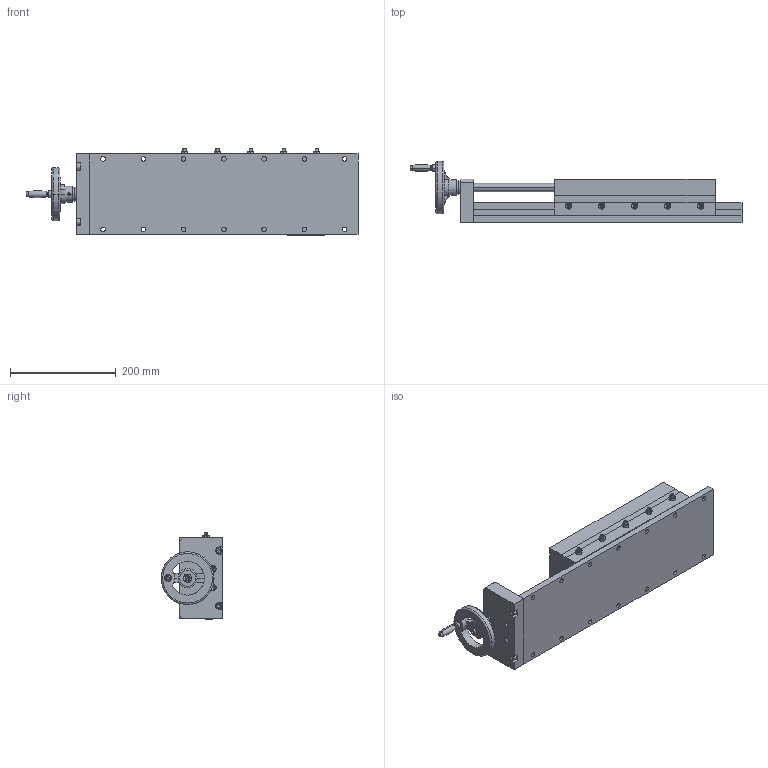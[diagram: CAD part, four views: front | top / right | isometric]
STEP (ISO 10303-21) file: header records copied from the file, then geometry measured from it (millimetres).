
FILE_DESCRIPTION (( 'STEP AP214' ), '1' );
FILE_NAME ('SW06-SL12-BL20-LS.STEP', '2011-11-04T18:42:02', ( '' ), ( '' ), 'SwSTEP 2.0', 'SolidWorks 2011', '' );
FILE_SCHEMA (( 'AUTOMOTIVE_DESIGN' ));
Length unit declared in the file: inch
Products named in the file (25): socket head cap screw_ai_HX-SHCS 0.25-20x0.5x0.5-N; EW-20; AHTNK100; 6681K11; Gen2 End Plate_06 EPLATE; socket head cap screw_ai_HX-SHCS 0.3125-18x0.625x0.625-N; EW-30; Lead Screw_5_8-8 x 09.12 Lg; spring pin slotted_ai_SPS 0.1875x1.25; Lead Nut_5_8-8; socket head cap screw_ai_HX-SHCS 0.3125-18x1.25x1.25-N; Gen2 Nut Plate_06x12 NPLATE; Gen2 SLIDE_SW06-SL12-BL20; Gen2 SADDLE_06x12 SADDLE; machine screw nut hex_ai_MSHXNUT 0.250-28-D-N; socket set screw cup point_ai_SSCUPSKT 0.25-28x1.25-HX-N; Tag; Gen2 Bar_06x12 BAR; Gen2 Adj Gib_06x12 ADJ GIB; Gen2 Gib_06x12 GIB; Gen2 Top plate_06x12 TPLATE; Gen2 BASE_06x20 BASE; Gen2 Hardplate_06x20 HPLATE; Gen2 Baseplate_06x20 BASE; SW06-SL12-BL20-LS
Assembly tree (43 placements, depth 4):
  SW06-SL12-BL20-LS
    socket head cap screw_ai_HX-SHCS 0.3125-18x1.25x1.25-N  x10
    socket head cap screw_ai_HX-SHCS 0.3125-18x0.625x0.625-N
    6681K11  x2
    AHTNK100
    spring pin slotted_ai_SPS 0.1875x1.25  x2
    Lead Nut_5_8-8
    EW-20
    EW-30
    Gen2 End Plate_06 EPLATE
    socket head cap screw_ai_HX-SHCS 0.25-20x0.5x0.5-N
    Lead Screw_5_8-8 x 09.12 Lg
    Gen2 Nut Plate_06x12 NPLATE
    Gen2 SLIDE_SW06-SL12-BL20
      Gen2 SADDLE_06x12 SADDLE
        Gen2 Bar_06x12 BAR
        socket set screw cup point_ai_SSCUPSKT 0.25-28x1.25-HX-N  x5
        Gen2 Adj Gib_06x12 ADJ GIB
        Tag
        machine screw nut hex_ai_MSHXNUT 0.250-28-D-N  x5
        Gen2 Gib_06x12 GIB
        Gen2 Top plate_06x12 TPLATE
      Gen2 BASE_06x20 BASE
        Gen2 Hardplate_06x20 HPLATE
        Gen2 Baseplate_06x20 BASE
Bounding box: 628.64 x 116.67 x 164.7 mm (x, y, z)
Volume: 4943117.9 mm3; surface area: 873585 mm2
Topology: 69 solids, 69 shells, 1140 faces, 2742 edges, 1585 vertices
Faces by surface type: plane 431, cylinder 313, cone 220, bspline 116, torus 58, sphere 2
Entity records: 23424 total; most frequent: CARTESIAN_POINT 6628, DIRECTION 3247, ORIENTED_EDGE 2900, EDGE_CURVE 1450, AXIS2_PLACEMENT_3D 1302, VERTEX_POINT 931, EDGE_LOOP 807, CIRCLE 675
